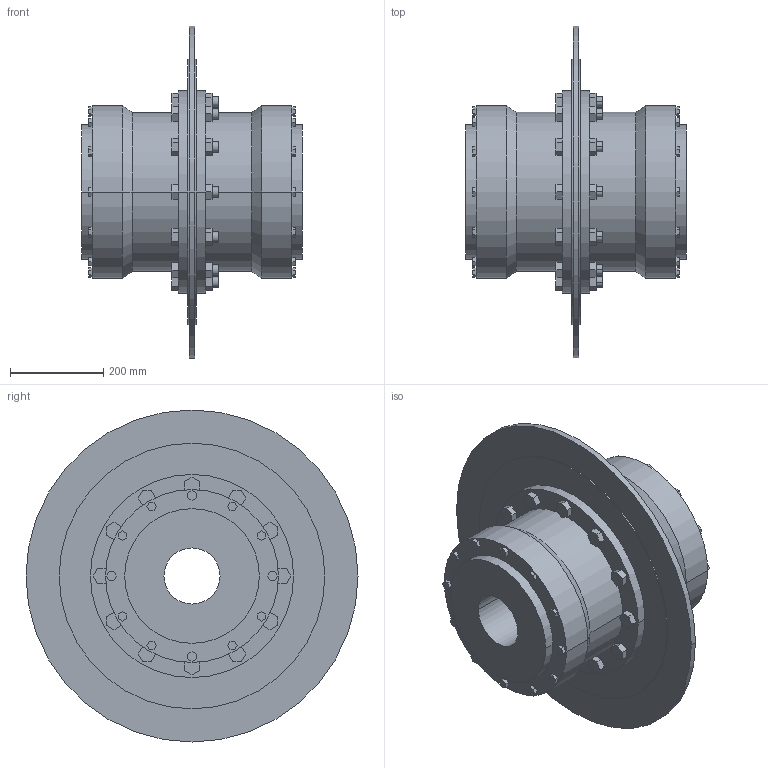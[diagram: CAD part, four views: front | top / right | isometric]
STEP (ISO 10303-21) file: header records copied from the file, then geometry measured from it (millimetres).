
FILE_DESCRIPTION((''),'2;1');
FILE_NAME('A19730900-0_ASM','2019-05-23T',('AB_Roschiwal'),('RENK AG'),'PRO/ENGINEER BY PARAMETRIC TECHNOLOGY CORPORATION, 2015440','PRO/ENGINEER BY PARAMETRIC TECHNOLOGY CORPORATION, 2015440','');
FILE_SCHEMA(('CONFIG_CONTROL_DESIGN'));
Length unit declared in the file: millimetre
Products named in the file (4): SBKT180_GEHAEUSE; SBKT180_NABE; SBKT180_BREMSSCHEIBE; A19730900-0_ASM
Assembly tree (4 placements, depth 2):
  A19730900-0_ASM
    SBKT180_GEHAEUSE
    SBKT180_NABE  x2
    SBKT180_BREMSSCHEIBE
Bounding box: 472 x 711 x 711 mm (x, y, z)
Volume: 41983226.8 mm3; surface area: 2798299.8 mm2
Topology: 4 solids, 4 shells, 470 faces, 1156 edges, 768 vertices
Faces by surface type: plane 370, cylinder 96, cone 4
Entity records: 13604 total; most frequent: CARTESIAN_POINT 2350, ORIENTED_EDGE 2264, DIRECTION 2240, EDGE_CURVE 1132, VECTOR 956, LINE 956, VERTEX_POINT 752, AXIS2_PLACEMENT_3D 642
